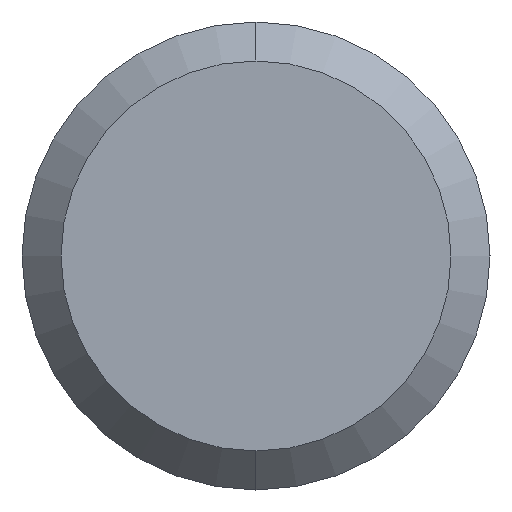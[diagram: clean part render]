
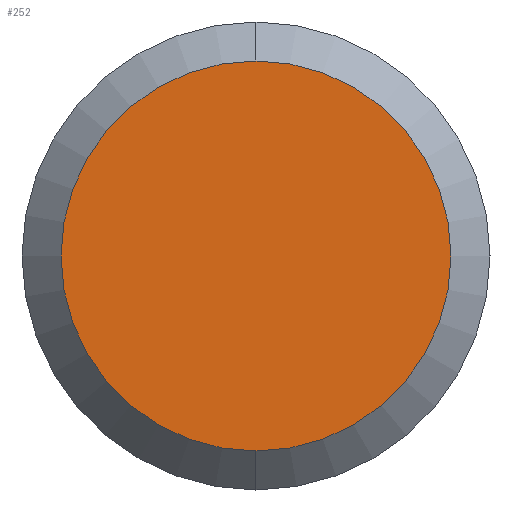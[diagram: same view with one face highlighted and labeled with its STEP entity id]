
A CAD part, left-side view. The second image highlights one B-rep face of the part: STEP entity #252.
In plain terms, the highlighted planar face has unit normal (-1, 0, 0).
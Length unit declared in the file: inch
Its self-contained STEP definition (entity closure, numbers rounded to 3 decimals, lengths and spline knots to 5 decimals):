
#20 = VERTEX_POINT ( 'NONE', #470 ) ;
#31 = PLANE ( 'NONE',  #402 ) ;
#95 = DIRECTION ( 'NONE',  ( 0., 0., -1. ) ) ;
#127 = AXIS2_PLACEMENT_3D ( 'NONE', #471, #329, #95 ) ;
#140 = DIRECTION ( 'NONE',  ( 1., 0., 0. ) ) ;
#143 = CARTESIAN_POINT ( 'NONE',  ( 0., 0., 0. ) ) ;
#171 = DIRECTION ( 'NONE',  ( 0., 0., -1. ) ) ;
#207 = DIRECTION ( 'NONE',  ( 0., 0., 1. ) ) ;
#236 = EDGE_CURVE ( 'NONE', #461, #20, #339, .T. ) ;
#252 = ADVANCED_FACE ( 'NONE', ( #358 ), #31, .T. ) ;
#270 = AXIS2_PLACEMENT_3D ( 'NONE', #143, #140, #171 ) ;
#284 = CIRCLE ( 'NONE', #270, 0.19685 ) ;
#302 = ORIENTED_EDGE ( 'NONE', *, *, #236, .F. ) ;
#310 = EDGE_CURVE ( 'NONE', #20, #461, #284, .T. ) ;
#319 = CARTESIAN_POINT ( 'NONE',  ( 0., 0.19685, 0. ) ) ;
#329 = DIRECTION ( 'NONE',  ( 1., 0., 0. ) ) ;
#339 = CIRCLE ( 'NONE', #127, 0.19685 ) ;
#358 = FACE_OUTER_BOUND ( 'NONE', #466, .T. ) ;
#401 = DIRECTION ( 'NONE',  ( -1., 0., 0. ) ) ;
#402 = AXIS2_PLACEMENT_3D ( 'NONE', #319, #401, #207 ) ;
#428 = ORIENTED_EDGE ( 'NONE', *, *, #310, .F. ) ;
#439 = CARTESIAN_POINT ( 'NONE',  ( 0., 0., 0.19685 ) ) ;
#461 = VERTEX_POINT ( 'NONE', #439 ) ;
#466 = EDGE_LOOP ( 'NONE', ( #428, #302 ) ) ;
#470 = CARTESIAN_POINT ( 'NONE',  ( 0., 0., -0.19685 ) ) ;
#471 = CARTESIAN_POINT ( 'NONE',  ( 0., 0., 0. ) ) ;
